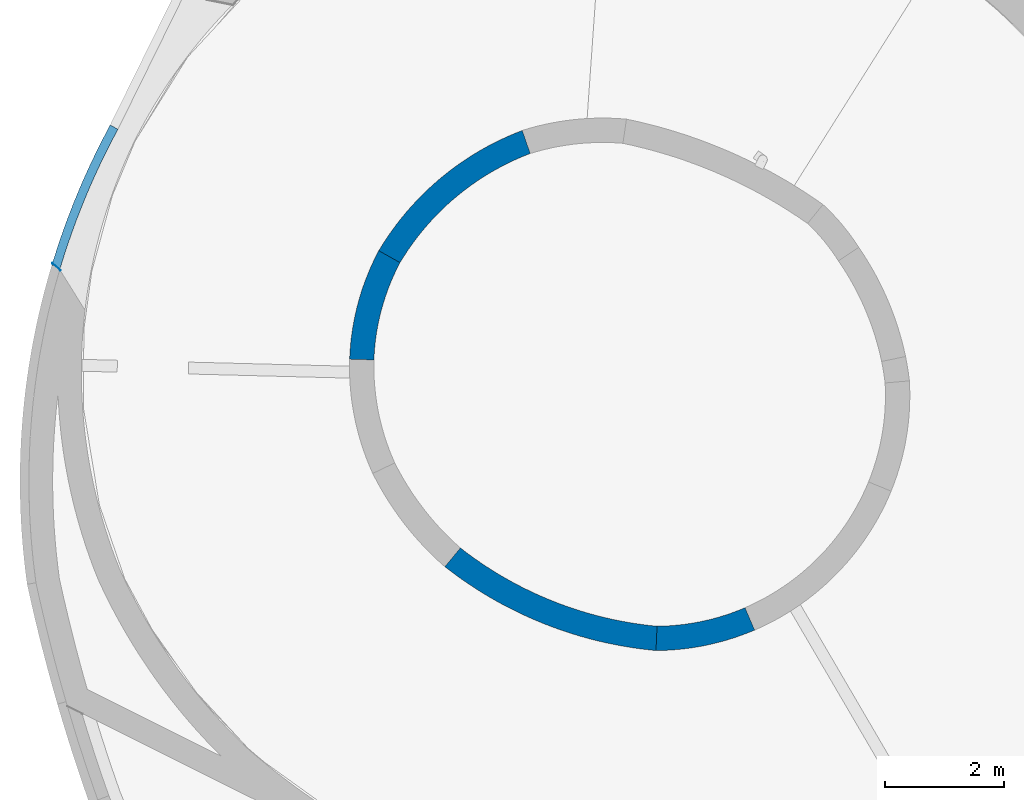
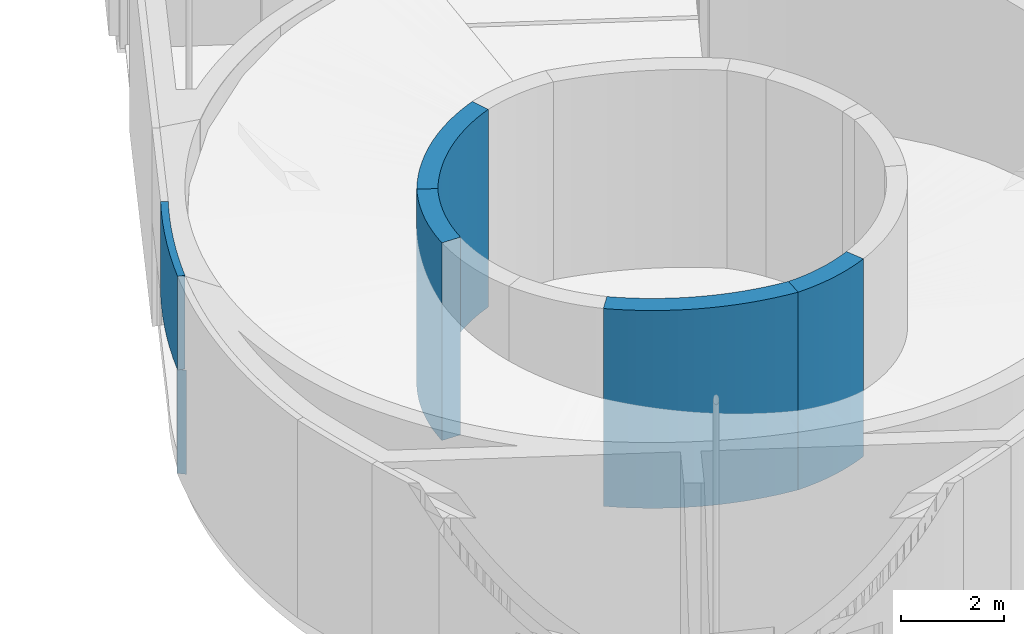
# One storey, part 6 of 91: 6 walls.
"""IFC2X3 building model written with IfcOpenShell, lengths in metres."""

from ifc_helpers import new_model, entity, si_unit, converted_unit, derived_unit, direction, frame, frame_2d, origin, place, context, subcontext, project, spatial, polyline, circle_curve, parameter, trimmed, segment, composite_curve, outline, extrude, material, layer, layer_set, layer_usage, type_object, element, save


model = new_model("IFC2X3")

# Units and contexts
model_context = context("Model", 3, precision=1e-05, world=origin(), true_north=direction((0.894925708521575, 0.446215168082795)))
context_of_model = context(None, 3, precision=1e-05, world=origin(), true_north=direction((0.894925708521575, 0.446215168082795)))
body_context = subcontext(model_context, "Body", "Model", "MODEL_VIEW")
ifc_project = project(units=[si_unit("LENGTHUNIT", "METRE"), si_unit("AREAUNIT", "SQUARE_METRE"), si_unit("VOLUMEUNIT", "CUBIC_METRE"), converted_unit("PLANEANGLEUNIT", "DEGREE", entity("IfcRatioMeasure", 0.0174532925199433), si_unit("PLANEANGLEUNIT", "RADIAN"), dimensions=[0, 0, 0, 0, 0, 0, 0]), si_unit("MASSUNIT", "GRAM", prefix="KILO"), si_unit("TIMEUNIT", "SECOND"), si_unit("FREQUENCYUNIT", "HERTZ"), si_unit("THERMODYNAMICTEMPERATUREUNIT", "DEGREE_CELSIUS"), derived_unit("THERMALTRANSMITTANCEUNIT", [(si_unit("MASSUNIT", "GRAM", prefix="KILO"), 1), (si_unit("THERMODYNAMICTEMPERATUREUNIT", "KELVIN"), -1), (si_unit("TIMEUNIT", "SECOND"), -3)]), derived_unit("VOLUMETRICFLOWRATEUNIT", [(si_unit("LENGTHUNIT", "METRE"), 3), (si_unit("TIMEUNIT", "SECOND"), -1)]), si_unit("ELECTRICCURRENTUNIT", "AMPERE"), si_unit("ELECTRICVOLTAGEUNIT", "VOLT"), si_unit("POWERUNIT", "WATT"), si_unit("FORCEUNIT", "NEWTON", prefix="KILO"), si_unit("ILLUMINANCEUNIT", "LUX"), si_unit("LUMINOUSFLUXUNIT", "LUMEN"), si_unit("LUMINOUSINTENSITYUNIT", "CANDELA"), si_unit("PRESSUREUNIT", "PASCAL")], contexts=[model_context, context_of_model])

# Site, building, storey
site_placement = place(None, frame((218.228324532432, 584.720189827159, 0.0), z_axis=(0.0, 0.0, 1.0), x_axis=(0.446215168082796, 0.894925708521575, 0.0)))
site = spatial("IfcSite", under=ifc_project, at=site_placement, Name="Default", CompositionType="ELEMENT")
building_placement = place(site_placement, origin())
building = spatial("IfcBuilding", under=site, at=building_placement, CompositionType="ELEMENT")
storey_placement = place(building_placement, origin())
storey = spatial("IfcBuildingStorey", under=building, at=storey_placement, Name="0 - Piano Terra", CompositionType="ELEMENT", Elevation=0.0)

# Walls
ifc_material_1 = material(Name="Intonaco - Bianco")
ifc_layer_1 = layer(ifc_material_1, 0.01)
ifc_material_2 = material(Name="Default - Calcestruzzo")
ifc_layer_2 = layer(ifc_material_2, 0.4)
ifc_layer_set_1 = layer_set([ifc_layer_1, ifc_layer_2], Name="Muro di base:Setto CA intonacato int - 41 cm")
ifc_layer_usage_1 = layer_usage(ifc_layer_set_1, "AXIS2", "POSITIVE", -0.205)
wall_type_1 = type_object("IfcWallType", Name="Muro di base:Setto CA intonacato int - 41 cm", PredefinedType="STANDARD", material=ifc_layer_set_1)
wall_1_placement = place(storey_placement, frame((-74.5089714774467, 0.653595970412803, 0.0), z_axis=(0.0, 0.0, 1.0), x_axis=(0.0272697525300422, 0.999628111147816, 0.0)))
element("IfcWallStandardCase", 1, at=wall_1_placement, inside=storey, type_object=wall_type_1, material=ifc_layer_usage_1, Name="Muro di base:Setto CA intonacato int - 41 cm", ObjectType="Muro di base:Setto CA intonacato int - 41 cm", context=body_context, shape_type="SweptSolid", body=[
    extrude(outline(composite_curve([segment(trimmed(circle_curve(frame_2d((-3.59104673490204, -1.75356267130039), x_axis=(1.0, 0.0)), 4.20132314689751), [parameter(1.26713298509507e-11)], [parameter(26.0269597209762)], True, "PARAMETER"), True, "CONTINUOUS"), segment(polyline([(0.18421047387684, 0.0899527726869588), (-0.183520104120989, -0.0913672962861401)]), True, "CONTINUOUS"), segment(trimmed(circle_curve(frame_2d((-3.59104673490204, -1.75356267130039), x_axis=(1.0, 0.0)), 3.79132314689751), [parameter(0.14633265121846)], [parameter(26.0031728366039)], True, "PARAMETER"), False, "CONTINUOUS"), segment(polyline([(0.200264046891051, -1.74387969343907), (0.610276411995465, -1.75356267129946)]), True, "CONTINUOUS")], self_intersect=False)), origin(), (0.0, 0.0, 1.0), 4.69),
])
ifc_layer_usage_2 = layer_usage(ifc_layer_set_1, "AXIS2", "POSITIVE", -0.205)
wall_2_placement = place(storey_placement, frame((-72.754707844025, 1.0113971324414, 0.0), z_axis=(0.0, 0.0, 1.0), x_axis=(0.67968048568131, 0.733508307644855, 0.0)))
element("IfcWallStandardCase", 2, at=wall_2_placement, inside=storey, type_object=wall_type_1, material=ifc_layer_usage_2, Name="Muro di base:Setto CA intonacato int - 41 cm", ObjectType="Muro di base:Setto CA intonacato int - 41 cm", context=body_context, shape_type="SweptSolid", body=[
    extrude(outline(composite_curve([segment(trimmed(circle_curve(frame_2d((-3.57404597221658, -2.84716007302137), x_axis=(1.0, 0.0)), 4.77447755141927), [parameter(3.40446573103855e-11)], [parameter(38.5415632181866)], True, "PARAMETER"), True, "CONTINUOUS"), segment(polyline([(0.160342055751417, 0.127731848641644), (-0.154278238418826, -0.13536123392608)]), True, "CONTINUOUS"), segment(trimmed(circle_curve(frame_2d((-3.57404597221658, -2.84716007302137), x_axis=(1.0, 0.0)), 4.36447755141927), [parameter(0.147710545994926)], [parameter(38.4136249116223)], True, "PARAMETER"), False, "CONTINUOUS"), segment(polyline([(0.790417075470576, -2.83590830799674), (1.20043157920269, -2.84716007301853)]), True, "CONTINUOUS")], self_intersect=False)), origin(), (0.0, 0.0, 1.0), 4.69),
])
ifc_layer_usage_3 = layer_usage(ifc_layer_set_1, "AXIS2", "POSITIVE", -0.205)
wall_3_placement = place(storey_placement, frame((-75.4992018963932, -7.1415728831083, 0.0), z_axis=(0.0, 0.0, 1.0), x_axis=(-0.892606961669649, -0.45083568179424, 0.0)))
element("IfcWallStandardCase", 3, at=wall_3_placement, inside=storey, type_object=wall_type_1, material=ifc_layer_usage_3, Name="Muro di base:Setto CA intonacato int - 41 cm", ObjectType="Muro di base:Setto CA intonacato int - 41 cm", context=body_context, shape_type="SweptSolid", body=[
    extrude(outline(composite_curve([segment(trimmed(circle_curve(frame_2d((-3.75001635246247, -1.58330388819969), x_axis=(1.0, 0.0)), 4.27556185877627), [parameter(1.02286638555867e-11)], [parameter(22.8900803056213)], True, "PARAMETER"), True, "CONTINUOUS"), segment(polyline([(0.188856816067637, 0.079737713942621), (-0.188578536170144, -0.0803969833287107)]), True, "CONTINUOUS"), segment(trimmed(circle_curve(frame_2d((-3.75001635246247, -1.58330388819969), x_axis=(1.0, 0.0)), 3.86556185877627), [parameter(0.288328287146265)], [parameter(22.8794736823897)], True, "PARAMETER"), False, "CONTINUOUS"), segment(polyline([(0.115496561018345, -1.56385138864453), (0.525545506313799, -1.58330388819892)]), True, "CONTINUOUS")], self_intersect=False)), origin(), (0.0, 0.0, 1.0), 4.69),
])
ifc_layer_usage_4 = layer_usage(ifc_layer_set_1, "AXIS2", "POSITIVE", -0.205)
wall_4_placement = place(storey_placement, frame((-76.4911375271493, -5.89072972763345, 0.0), z_axis=(0.0, 0.0, 1.0), x_axis=(-0.97942685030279, 0.201799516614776, 0.0)))
element("IfcWallStandardCase", 4, at=wall_4_placement, inside=storey, type_object=wall_type_1, material=ifc_layer_usage_4, Name="Muro di base:Setto CA intonacato int - 41 cm", ObjectType="Muro di base:Setto CA intonacato int - 41 cm", context=body_context, shape_type="SweptSolid", body=[
    extrude(outline(composite_curve([segment(trimmed(circle_curve(frame_2d((-5.48595074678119, -3.55652040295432), x_axis=(1.0, 0.0)), 6.74292726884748), [parameter(3.30777686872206e-12)], [parameter(32.9551835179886)], True, "PARAMETER"), True, "CONTINUOUS"), segment(polyline([(0.172014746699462, 0.11151648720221), (-0.161255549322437, -0.128169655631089)]), True, "CONTINUOUS"), segment(trimmed(circle_curve(frame_2d((-5.48595074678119, -3.55652040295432), x_axis=(1.0, 0.0)), 6.33292726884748), [parameter(0.096114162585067)], [parameter(32.7758079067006)], True, "PARAMETER"), False, "CONTINUOUS"), segment(polyline([(0.846967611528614, -3.54589686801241), (1.2569765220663, -3.55652040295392)]), True, "CONTINUOUS")], self_intersect=False)), origin(), (0.0, 0.0, 1.0), 4.69),
])
ifc_material_3 = material(Name="Alluminio")
ifc_layer_3 = layer(ifc_material_3, 0.15)
ifc_layer_set_2 = layer_set([ifc_layer_3], Name="Muro di base:Rivestimento 15 cm")
ifc_layer_usage_5 = layer_usage(ifc_layer_set_2, "AXIS2", "POSITIVE", -0.075)
wall_type_2 = type_object("IfcWallType", Name="Muro di base:Rivestimento 15 cm", PredefinedType="STANDARD", material=ifc_layer_set_2)
wall_5_placement = place(storey_placement, frame((-75.4011134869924, 5.95921430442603, 2.47)))
element("IfcWallStandardCase", 5, at=wall_5_placement, inside=storey, type_object=wall_type_2, material=ifc_layer_usage_5, Name="Muro di base:Rivestimento 15 cm", ObjectType="Muro di base:Rivestimento 15 cm", context=body_context, shape_type="SweptSolid", body=[
    extrude(outline(composite_curve([segment(polyline([(2.5352652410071, 0.248143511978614), (2.17557151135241, 0.254980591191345)]), True, "CONTINUOUS"), segment(polyline([(2.17557151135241, 0.254980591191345), (1.81582931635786, 0.25154178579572)]), True, "CONTINUOUS"), segment(polyline([(1.81582931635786, 0.25154178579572), (1.45633210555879, 0.237829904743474)]), True, "CONTINUOUS"), segment(polyline([(1.45633210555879, 0.237829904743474), (1.09737320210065, 0.213856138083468)]), True, "CONTINUOUS"), segment(polyline([(1.09737320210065, 0.213856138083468), (0.739245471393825, 0.179640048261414)]), True, "CONTINUOUS"), segment(polyline([(0.739245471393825, 0.179640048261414), (0.3822411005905, 0.135209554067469)]), True, "CONTINUOUS"), segment(polyline([(0.3822411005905, 0.135209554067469), (0.0266626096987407, 0.0806026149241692)]), True, "CONTINUOUS"), segment(polyline([(0.0266626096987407, 0.0806026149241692), (0.0212391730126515, 0.0796892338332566)]), True, "CONTINUOUS"), segment(polyline([(0.0212391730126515, 0.0796892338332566), (0.015824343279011, 0.0787745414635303)]), True, "CONTINUOUS"), segment(polyline([(0.015824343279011, 0.0787745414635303), (0.0015710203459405, 0.0763557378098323)]), True, "CONTINUOUS"), segment(polyline([(0.0015710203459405, 0.0763557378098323), (-0.0126761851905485, 0.0739210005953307)]), True, "CONTINUOUS"), segment(polyline([(-0.0126761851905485, 0.0739210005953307), (0.0126761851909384, -0.0739210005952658)]), True, "CONTINUOUS"), segment(trimmed(circle_curve(frame_2d((2.11607936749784, -12.3398878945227), x_axis=(1.0, 0.0)), 12.4450089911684), [parameter(88.0794937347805)], [parameter(99.7306006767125)], True, "PARAMETER"), False, "CONTINUOUS"), segment(polyline([(2.53314747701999, 0.0981305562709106), (2.53526524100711, 0.248143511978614)]), True, "CONTINUOUS")], self_intersect=False)), origin(), (0.0, 0.0, 1.0), 2.22),
])
ifc_layer_4 = layer(ifc_material_3, 0.01)
ifc_layer_set_3 = layer_set([ifc_layer_4], Name="Muro di base:Lamierino")
ifc_layer_usage_6 = layer_usage(ifc_layer_set_3, "AXIS2", "POSITIVE", -0.00500000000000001)
wall_type_3 = type_object("IfcWallType", Name="Muro di base:Lamierino", PredefinedType="STANDARD", material=ifc_layer_set_3)
wall_6_placement = place(storey_placement, frame((-75.4270614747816, 5.8618420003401, 0.0), z_axis=(0.0, 0.0, 1.0), x_axis=(0.257496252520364, 0.966279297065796, 0.0)))
element("IfcWallStandardCase", 6, at=wall_6_placement, inside=storey, type_object=wall_type_3, material=ifc_layer_usage_6, Name="Muro di base:Lamierino", ObjectType="Muro di base:Lamierino", context=body_context, shape_type="SweptSolid", body=[
    extrude(outline(composite_curve([segment(trimmed(circle_curve(frame_2d((-0.0534638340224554, 12.4810219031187), x_axis=(-0.986071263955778, 0.166323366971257)), 12.5950089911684), [parameter(99.5491249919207)], [parameter(99.5991153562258)], True, "PARAMETER"), True, "CONTINUOUS"), segment(polyline([(-0.0479692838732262, -0.113985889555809), (0.0204755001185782, 0.0362325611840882)]), True, "CONTINUOUS"), segment(trimmed(circle_curve(frame_2d((-0.0534638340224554, 12.4810219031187), x_axis=(-0.986071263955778, 0.166323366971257)), 12.4450089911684), [parameter(99.8878128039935)], [parameter(99.9145326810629)], True, "PARAMETER"), False, "CONTINUOUS"), segment(polyline([(0.0146718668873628, 0.0361994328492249), (0.0267575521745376, 0.0500200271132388)]), True, "CONTINUOUS"), segment(polyline([(0.026757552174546, 0.050020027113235), (0.0270613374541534, 0.0506867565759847)]), True, "CONTINUOUS"), segment(polyline([(0.0270613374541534, 0.0506867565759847), (0.0179614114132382, 0.0548330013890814)]), True, "CONTINUOUS"), segment(polyline([(0.0179614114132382, 0.0548330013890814), (-0.0589583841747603, -0.113985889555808)]), True, "CONTINUOUS")], self_intersect=False)), frame((0.0573448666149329, 0.0013903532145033, 0.0), z_axis=(0.0, 0.0, 1.0), x_axis=(-0.414624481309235, 0.909992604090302, 0.0)), (0.0, 0.0, 1.0), 2.47),
])

save(model, "model.ifc")
